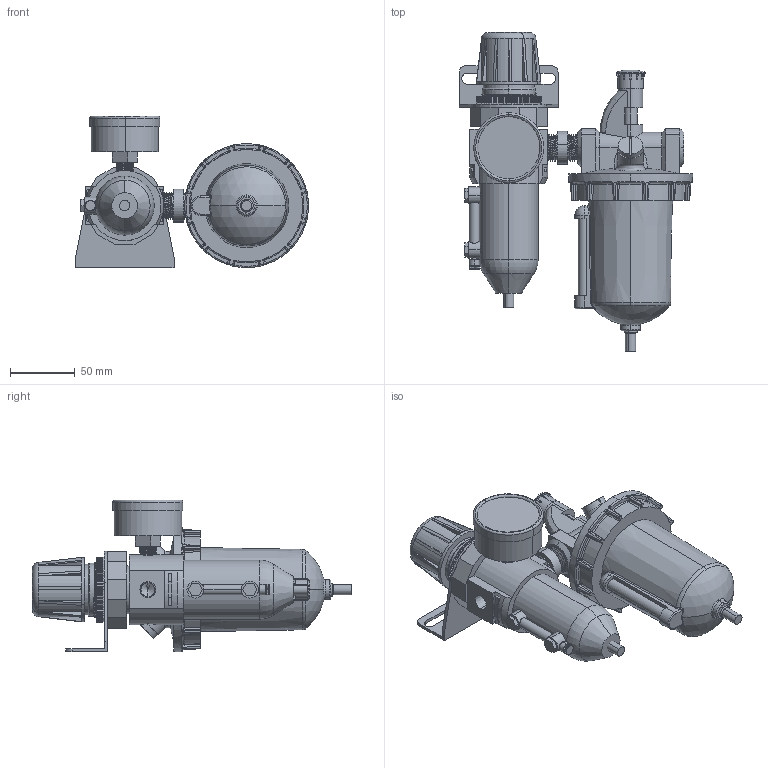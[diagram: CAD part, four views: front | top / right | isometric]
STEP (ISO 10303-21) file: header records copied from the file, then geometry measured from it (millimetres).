
FILE_DESCRIPTION (( 'STEP AP203' ), '1' );
FILE_NAME ('U658W-04#YB#.STEP', '2016-01-14T17:16:22', ( '' ), ( '' ), 'SwSTEP 2.0', 'SolidWorks 2014', '' );
FILE_SCHEMA (( 'CONFIG_CONTROL_DESIGN' ));
Length unit declared in the file: millimetre
Products named in the file (25): R010-4; L606-W-06-3; U658W-04#YB#; L606-W-04-分割; D011W-04-刻度計; R010-3; L606-W-06-5; 50-P-AD=1-4PT-2; D011W-6; L606-W-04-1; D011W-5; L606-W-06-2; KWR10X51; L606-W-06-4; B011W-02#YGB#; B011W-1; D011W-4; 50-P-AD=1-4PT-1; 50-P-AD=1-4PT.SLDPRT; KWSAR10Y57; KWSAR10Y57-1; 1-2-圓; R010-上半部; L606W-04; L606-W-04
Assembly tree (27 placements, depth 5):
  U658W-04#YB#
    B011W-02#YGB#
      B011W-1
      50-P-AD=1-4PT.SLDPRT
        50-P-AD=1-4PT-1
        50-P-AD=1-4PT-2
      L606-W-06-5
      R010-上半部
        R010-3
        R010-4
        KWSAR10Y57
          KWSAR10Y57-1
          KWR10X51
      D011W-04-刻度計
        D011W-5  x2
        D011W-4
        D011W-6
    1-2-圓
    L606W-04
      L606-W-06-2
      L606-W-06-5
      L606-W-06-4
      L606-W-06-3  x2
      L606-W-04
      L606-W-04-1
      L606-W-04-分割
Bounding box: 179.75 x 246 x 117 mm (x, y, z)
Volume: 945609.1 mm3; surface area: 146732.2 mm2
Topology: 21 solids, 21 shells, 1221 faces, 3238 edges, 2050 vertices
Faces by surface type: plane 654, cylinder 276, bspline 121, cone 90, torus 47, sphere 33
Entity records: 51359 total; most frequent: CARTESIAN_POINT 20088, ORIENTED_EDGE 6288, DIRECTION 5688, EDGE_CURVE 3144, VERTEX_POINT 2013, AXIS2_PLACEMENT_3D 1994, LINE 1700, VECTOR 1700
